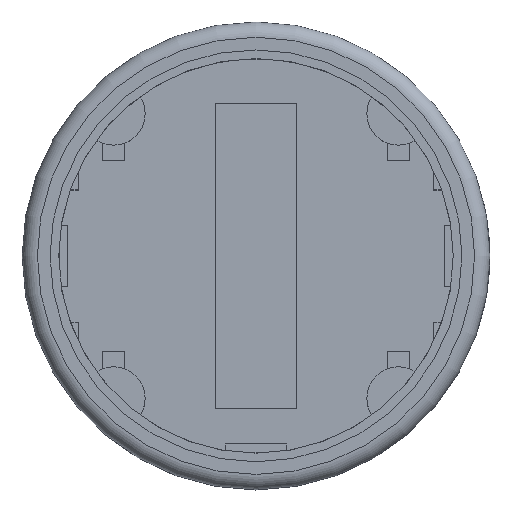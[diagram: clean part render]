
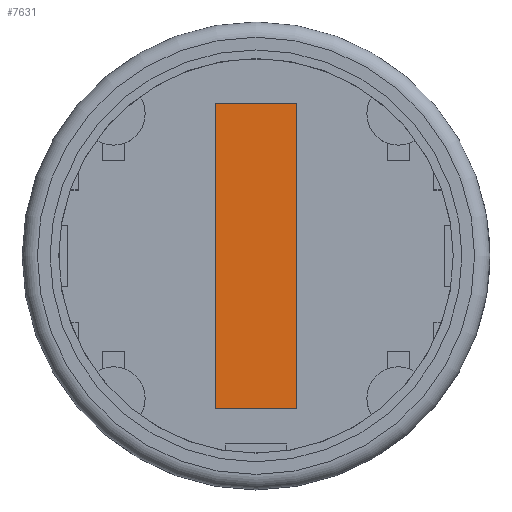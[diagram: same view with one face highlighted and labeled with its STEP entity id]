
A CAD part, top view. The second image highlights one B-rep face of the part: STEP entity #7631.
In plain terms, the highlighted planar face has unit normal (0, 0, 1).
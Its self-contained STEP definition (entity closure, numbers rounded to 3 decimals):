
#4510 = PLANE('',#4511);
#4511 = AXIS2_PLACEMENT_3D('',#4512,#4513,#4514);
#4512 = CARTESIAN_POINT('',(-4.,-15.,1.79));
#4513 = DIRECTION('',(0.,1.,0.));
#4514 = DIRECTION('',(0.,0.,1.));
#4536 = PLANE('',#4537);
#4537 = AXIS2_PLACEMENT_3D('',#4538,#4539,#4540);
#4538 = CARTESIAN_POINT('',(-4.,-15.,1.79));
#4539 = DIRECTION('',(1.,0.,0.));
#4540 = DIRECTION('',(0.,0.,1.));
#4562 = PLANE('',#4563);
#4563 = AXIS2_PLACEMENT_3D('',#4564,#4565,#4566);
#4564 = CARTESIAN_POINT('',(-4.,15.,1.79));
#4565 = DIRECTION('',(0.,1.,0.));
#4566 = DIRECTION('',(0.,0.,1.));
#4586 = PLANE('',#4587);
#4587 = AXIS2_PLACEMENT_3D('',#4588,#4589,#4590);
#4588 = CARTESIAN_POINT('',(4.,-15.,1.79));
#4589 = DIRECTION('',(1.,0.,0.));
#4590 = DIRECTION('',(0.,0.,1.));
#6269 = VERTEX_POINT('',#6270);
#6270 = CARTESIAN_POINT('',(4.,-15.,1.79));
#6291 = EDGE_CURVE('',#6292,#6269,#6294,.T.);
#6292 = VERTEX_POINT('',#6293);
#6293 = CARTESIAN_POINT('',(-4.,-15.,1.79));
#6294 = SURFACE_CURVE('',#6295,(#6299,#6306),.PCURVE_S1.);
#6295 = LINE('',#6296,#6297);
#6296 = CARTESIAN_POINT('',(-4.,-15.,1.79));
#6297 = VECTOR('',#6298,1.);
#6298 = DIRECTION('',(1.,0.,0.));
#6299 = PCURVE('',#4510,#6300);
#6300 = DEFINITIONAL_REPRESENTATION('',(#6301),#6305);
#6301 = LINE('',#6302,#6303);
#6302 = CARTESIAN_POINT('',(0.,0.));
#6303 = VECTOR('',#6304,1.);
#6304 = DIRECTION('',(0.,1.));
#6305 = ( GEOMETRIC_REPRESENTATION_CONTEXT(2) 
PARAMETRIC_REPRESENTATION_CONTEXT() REPRESENTATION_CONTEXT('2D SPACE',''
  ) );
#6306 = PCURVE('',#6307,#6312);
#6307 = PLANE('',#6308);
#6308 = AXIS2_PLACEMENT_3D('',#6309,#6310,#6311);
#6309 = CARTESIAN_POINT('',(-4.,-15.,1.79));
#6310 = DIRECTION('',(0.,0.,1.));
#6311 = DIRECTION('',(1.,0.,0.));
#6312 = DEFINITIONAL_REPRESENTATION('',(#6313),#6317);
#6313 = LINE('',#6314,#6315);
#6314 = CARTESIAN_POINT('',(0.,0.));
#6315 = VECTOR('',#6316,1.);
#6316 = DIRECTION('',(1.,0.));
#6317 = ( GEOMETRIC_REPRESENTATION_CONTEXT(2) 
PARAMETRIC_REPRESENTATION_CONTEXT() REPRESENTATION_CONTEXT('2D SPACE',''
  ) );
#6345 = EDGE_CURVE('',#6269,#6346,#6348,.T.);
#6346 = VERTEX_POINT('',#6347);
#6347 = CARTESIAN_POINT('',(4.,15.,1.79));
#6348 = SURFACE_CURVE('',#6349,(#6353,#6360),.PCURVE_S1.);
#6349 = LINE('',#6350,#6351);
#6350 = CARTESIAN_POINT('',(4.,-15.,1.79));
#6351 = VECTOR('',#6352,1.);
#6352 = DIRECTION('',(0.,1.,0.));
#6353 = PCURVE('',#4586,#6354);
#6354 = DEFINITIONAL_REPRESENTATION('',(#6355),#6359);
#6355 = LINE('',#6356,#6357);
#6356 = CARTESIAN_POINT('',(0.,0.));
#6357 = VECTOR('',#6358,1.);
#6358 = DIRECTION('',(0.,-1.));
#6359 = ( GEOMETRIC_REPRESENTATION_CONTEXT(2) 
PARAMETRIC_REPRESENTATION_CONTEXT() REPRESENTATION_CONTEXT('2D SPACE',''
  ) );
#6360 = PCURVE('',#6307,#6361);
#6361 = DEFINITIONAL_REPRESENTATION('',(#6362),#6366);
#6362 = LINE('',#6363,#6364);
#6363 = CARTESIAN_POINT('',(8.,0.));
#6364 = VECTOR('',#6365,1.);
#6365 = DIRECTION('',(0.,1.));
#6366 = ( GEOMETRIC_REPRESENTATION_CONTEXT(2) 
PARAMETRIC_REPRESENTATION_CONTEXT() REPRESENTATION_CONTEXT('2D SPACE',''
  ) );
#6394 = EDGE_CURVE('',#6395,#6346,#6397,.T.);
#6395 = VERTEX_POINT('',#6396);
#6396 = CARTESIAN_POINT('',(-4.,15.,1.79));
#6397 = SURFACE_CURVE('',#6398,(#6402,#6409),.PCURVE_S1.);
#6398 = LINE('',#6399,#6400);
#6399 = CARTESIAN_POINT('',(-4.,15.,1.79));
#6400 = VECTOR('',#6401,1.);
#6401 = DIRECTION('',(1.,0.,0.));
#6402 = PCURVE('',#4562,#6403);
#6403 = DEFINITIONAL_REPRESENTATION('',(#6404),#6408);
#6404 = LINE('',#6405,#6406);
#6405 = CARTESIAN_POINT('',(0.,0.));
#6406 = VECTOR('',#6407,1.);
#6407 = DIRECTION('',(0.,1.));
#6408 = ( GEOMETRIC_REPRESENTATION_CONTEXT(2) 
PARAMETRIC_REPRESENTATION_CONTEXT() REPRESENTATION_CONTEXT('2D SPACE',''
  ) );
#6409 = PCURVE('',#6307,#6410);
#6410 = DEFINITIONAL_REPRESENTATION('',(#6411),#6415);
#6411 = LINE('',#6412,#6413);
#6412 = CARTESIAN_POINT('',(0.,30.));
#6413 = VECTOR('',#6414,1.);
#6414 = DIRECTION('',(1.,0.));
#6415 = ( GEOMETRIC_REPRESENTATION_CONTEXT(2) 
PARAMETRIC_REPRESENTATION_CONTEXT() REPRESENTATION_CONTEXT('2D SPACE',''
  ) );
#6443 = EDGE_CURVE('',#6292,#6395,#6444,.T.);
#6444 = SURFACE_CURVE('',#6445,(#6449,#6456),.PCURVE_S1.);
#6445 = LINE('',#6446,#6447);
#6446 = CARTESIAN_POINT('',(-4.,-15.,1.79));
#6447 = VECTOR('',#6448,1.);
#6448 = DIRECTION('',(0.,1.,0.));
#6449 = PCURVE('',#4536,#6450);
#6450 = DEFINITIONAL_REPRESENTATION('',(#6451),#6455);
#6451 = LINE('',#6452,#6453);
#6452 = CARTESIAN_POINT('',(0.,0.));
#6453 = VECTOR('',#6454,1.);
#6454 = DIRECTION('',(0.,-1.));
#6455 = ( GEOMETRIC_REPRESENTATION_CONTEXT(2) 
PARAMETRIC_REPRESENTATION_CONTEXT() REPRESENTATION_CONTEXT('2D SPACE',''
  ) );
#6456 = PCURVE('',#6307,#6457);
#6457 = DEFINITIONAL_REPRESENTATION('',(#6458),#6462);
#6458 = LINE('',#6459,#6460);
#6459 = CARTESIAN_POINT('',(0.,0.));
#6460 = VECTOR('',#6461,1.);
#6461 = DIRECTION('',(0.,1.));
#6462 = ( GEOMETRIC_REPRESENTATION_CONTEXT(2) 
PARAMETRIC_REPRESENTATION_CONTEXT() REPRESENTATION_CONTEXT('2D SPACE',''
  ) );
#7631 = ADVANCED_FACE('',(#7632),#6307,.T.);
#7632 = FACE_BOUND('',#7633,.T.);
#7633 = EDGE_LOOP('',(#7634,#7635,#7636,#7637));
#7634 = ORIENTED_EDGE('',*,*,#6443,.F.);
#7635 = ORIENTED_EDGE('',*,*,#6291,.T.);
#7636 = ORIENTED_EDGE('',*,*,#6345,.T.);
#7637 = ORIENTED_EDGE('',*,*,#6394,.F.);
